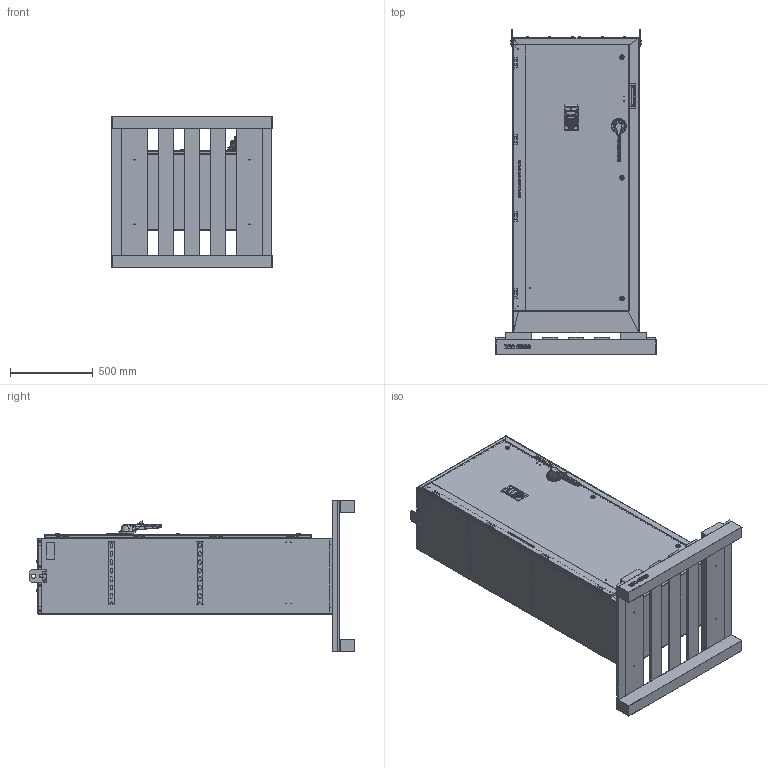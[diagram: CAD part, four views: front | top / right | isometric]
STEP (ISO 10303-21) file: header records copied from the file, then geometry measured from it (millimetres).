
FILE_DESCRIPTION (( 'STEP AP203' ), '1' );
FILE_NAME ('GETR0300A64AR1XKX1U0-M4.STEP', '2019-07-19T14:03:37', ( 'root' ), ( '' ), 'SwSTEP 2.0', 'SolidWorks 2018', '' );
FILE_SCHEMA (( 'CONFIG_CONTROL_DESIGN' ));
Products named in the file (1): GETR0300A64AR1XKX1U0-M4
Bounding box: 965.2 x 1962.14 x 914.4 mm (x, y, z)
Surface area: 13788667.9 mm2 (no closed solid volume)
Topology: 0 solids, 163 shells, 4084 faces, 12873 edges, 9111 vertices
Faces by surface type: plane 1638, bspline 1634, cylinder 660, cone 76, torus 40, sphere 36
Full cylindrical faces by diameter (mm): 1.839 x2, 2.286 x6, 3.251 x60, 4 x8, 4.826 x4, 4.877 x2, 5 x16, 5.527 x2, 5.944 x3, 6.35 x35, 6.401 x4, 7.061 x2, 7.137 x26, 7.276 x1, 7.544 x2, 8.458 x2, 8.56 x2, 8.814 x16, 9.525 x18, 9.754 x3, 10.312 x4, 11.113 x2, 12.319 x16, 12.7 x4, 12.827 x3, 15.875 x5, 16.256 x3, 20.625 x4, 25.4 x2, 27.762 x3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
Entity records: 183431 total; most frequent: CARTESIAN_POINT 88822, ORIENTED_EDGE 22335, DIRECTION 13175, EDGE_CURVE 12360, VERTEX_POINT 9035, EDGE_LOOP 5227, VECTOR 5173, LINE 5173
